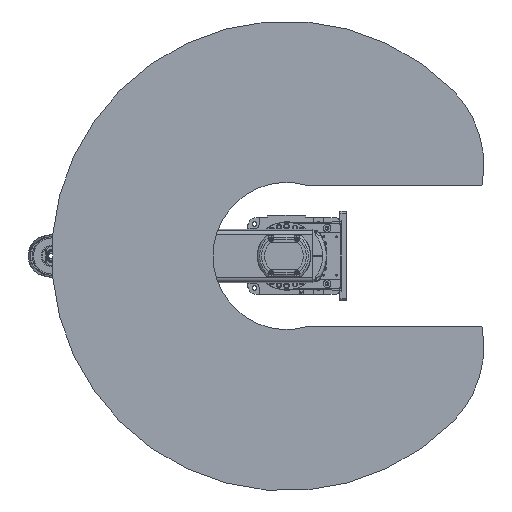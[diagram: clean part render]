
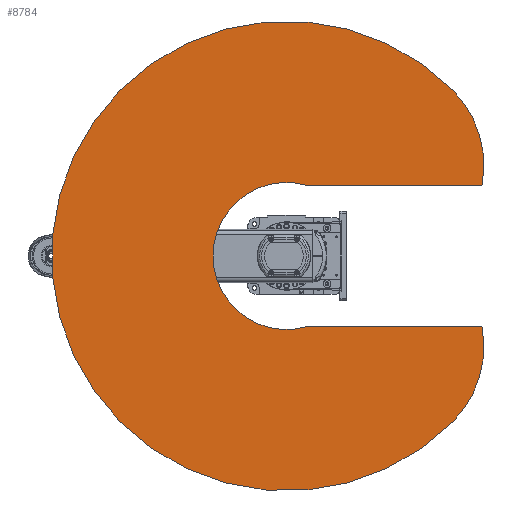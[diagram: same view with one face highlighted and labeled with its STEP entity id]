
A CAD part, front view. The second image highlights one B-rep face of the part: STEP entity #8784.
In plain terms, the highlighted planar face has unit normal (0, -1, 0).
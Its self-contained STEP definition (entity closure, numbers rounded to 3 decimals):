
#8784 = ADVANCED_FACE( '', ( #19222 ), #19223, .F. );
#19222 = FACE_OUTER_BOUND( '', #31102, .T. );
#19223 = PLANE( '', #31103 );
#31102 = EDGE_LOOP( '', ( #54786, #54787, #54788, #54789, #54790, #54791 ) );
#31103 = AXIS2_PLACEMENT_3D( '', #54792, #54793, #54794 );
#54786 = ORIENTED_EDGE( '', *, *, #59503, .T. );
#54787 = ORIENTED_EDGE( '', *, *, #67520, .F. );
#54788 = ORIENTED_EDGE( '', *, *, #68505, .F. );
#54789 = ORIENTED_EDGE( '', *, *, #68293, .F. );
#54790 = ORIENTED_EDGE( '', *, *, #61820, .T. );
#54791 = ORIENTED_EDGE( '', *, *, #68283, .T. );
#54792 = CARTESIAN_POINT( '', ( 106.066, 0., 106.066 ) );
#54793 = DIRECTION( '', ( 0., 1., 0. ) );
#54794 = DIRECTION( '', ( 0., 0., 1. ) );
#59503 = EDGE_CURVE( '', #69482, #69480, #69483, .T. );
#61820 = EDGE_CURVE( '', #73488, #73490, #73492, .T. );
#67520 = EDGE_CURVE( '', #82008, #69480, #82010, .T. );
#68283 = EDGE_CURVE( '', #73490, #69482, #82926, .T. );
#68293 = EDGE_CURVE( '', #73488, #82937, #82938, .T. );
#68505 = EDGE_CURVE( '', #82937, #82008, #83186, .T. );
#69480 = VERTEX_POINT( '', #84238 );
#69482 = VERTEX_POINT( '', #84241 );
#69483 = LINE( '', #84242, #84243 );
#73488 = VERTEX_POINT( '', #91154 );
#73490 = VERTEX_POINT( '', #91157 );
#73492 = LINE( '', #91160, #91161 );
#82008 = VERTEX_POINT( '', #105350 );
#82010 = CIRCLE( '', #105353, 250. );
#82926 = CIRCLE( '', #106943, 172.13 );
#82937 = VERTEX_POINT( '', #106969 );
#82938 = CIRCLE( '', #106970, 250. );
#83186 = CIRCLE( '', #107314, 550. );
#84238 = CARTESIAN_POINT( '', ( -165., 0., 457.649 ) );
#84241 = CARTESIAN_POINT( '', ( -165., 0., 49.028 ) );
#84242 = CARTESIAN_POINT( '', ( -165., 0., 0. ) );
#84243 = VECTOR( '', #108781, 1000. );
#91154 = CARTESIAN_POINT( '', ( 165., 0., 457.649 ) );
#91157 = CARTESIAN_POINT( '', ( 165., 0., 49.028 ) );
#91160 = CARTESIAN_POINT( '', ( 165., 0., 500. ) );
#91161 = VECTOR( '', #111818, 1000. );
#105350 = CARTESIAN_POINT( '', ( -388.909, 0., 388.909 ) );
#105353 = AXIS2_PLACEMENT_3D( '', #118650, #118651, #118652 );
#106943 = AXIS2_PLACEMENT_3D( '', #119316, #119317, #119318 );
#106969 = CARTESIAN_POINT( '', ( 388.909, 0., 388.909 ) );
#106970 = AXIS2_PLACEMENT_3D( '', #119324, #119325, #119326 );
#107314 = AXIS2_PLACEMENT_3D( '', #119540, #119541, #119542 );
#108781 = DIRECTION( '', ( 0., 0., 1. ) );
#111818 = DIRECTION( '', ( 0., 0., -1. ) );
#118650 = CARTESIAN_POINT( '', ( -212.132, 0., 212.132 ) );
#118651 = DIRECTION( '', ( 0., 1., 0. ) );
#118652 = DIRECTION( '', ( 1., 0., 0. ) );
#119316 = CARTESIAN_POINT( '', ( 0., 0., 0. ) );
#119317 = DIRECTION( '', ( 0., 1., 0. ) );
#119318 = DIRECTION( '', ( 1., 0., 0. ) );
#119324 = CARTESIAN_POINT( '', ( 212.132, 0., 212.132 ) );
#119325 = DIRECTION( '', ( 0., 1., 0. ) );
#119326 = DIRECTION( '', ( 1., 0., 0. ) );
#119540 = CARTESIAN_POINT( '', ( 0., 0., 0. ) );
#119541 = DIRECTION( '', ( 0., 1., 0. ) );
#119542 = DIRECTION( '', ( 1., 0., 0. ) );
